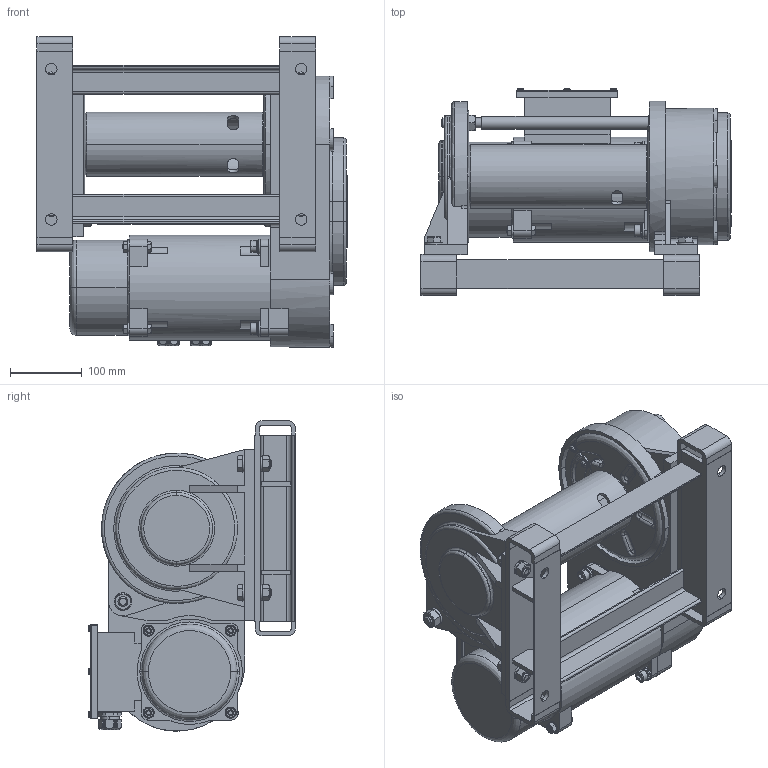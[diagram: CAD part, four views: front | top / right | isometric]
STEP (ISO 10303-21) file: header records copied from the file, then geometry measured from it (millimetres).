
FILE_DESCRIPTION( (''), '2;1');
FILE_NAME ('BMW-203.stp','2023-05-12T15:22:01',(''),(''),'spGate 19.8.2 (****-****-****-****)','','');
FILE_SCHEMA (('AUTOMOTIVE_DESIGN'));
Length unit declared in the file: millimetre
Products named in the file (9): Assembly; BMW-203-prt0; BMW-203-prt1; BMW-203-prt2; BMW-203-prt3; BMW-203-prt4; BMW-203-prt5; BMW-203-prt6; BMW-203-prt7
Assembly tree (8 placements, depth 2):
  Assembly
    BMW-203-prt0
    BMW-203-prt1
    BMW-203-prt2
    BMW-203-prt3
    BMW-203-prt4
    BMW-203-prt5
    BMW-203-prt6
    BMW-203-prt7
Bounding box: 433 x 290.2 x 433.3 mm (x, y, z)
Volume: 14563184.1 mm3; surface area: 1257894.7 mm2
Topology: 3 solids, 3 shells, 2095 faces, 5418 edges, 3418 vertices
Faces by surface type: plane 1192, cylinder 558, bspline 305, sphere 40
Entity records: 113100 total; most frequent: CARTESIAN_POINT 20222, ORIENTED_EDGE 10764, DIRECTION 10160, COLOUR_RGB 7485, PRESENTATION_STYLE_ASSIGNMENT 7485, STYLED_ITEM 7485, EDGE_CURVE 5382, DRAUGHTING_PRE_DEFINED_CURVE_FONT 5382
